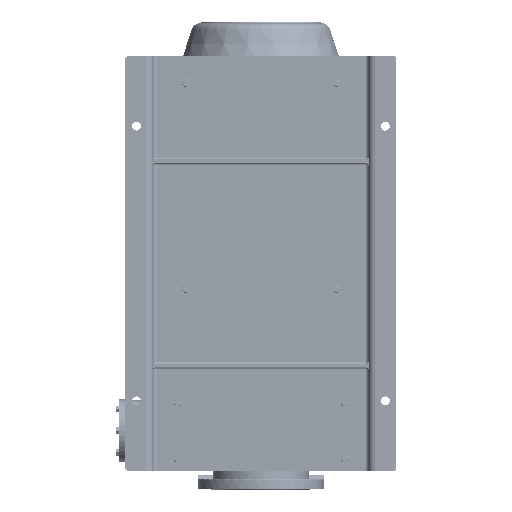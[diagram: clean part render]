
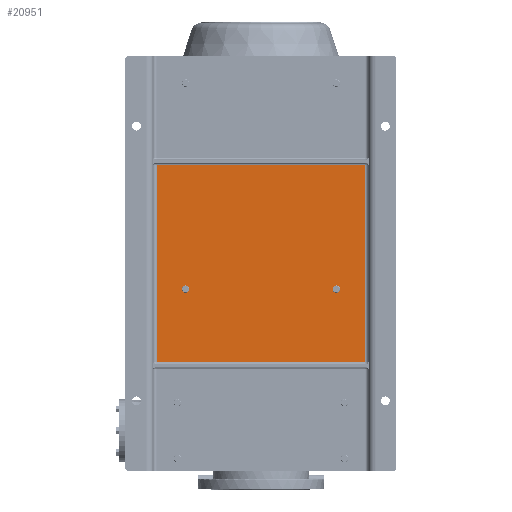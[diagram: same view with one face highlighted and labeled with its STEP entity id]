
A CAD part, front view. The second image highlights one B-rep face of the part: STEP entity #20951.
In plain terms, the highlighted planar face has unit normal (0, -1, 0).
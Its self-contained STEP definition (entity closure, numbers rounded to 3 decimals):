
#3904 = DIRECTION ( 'NONE',  ( 0., 0., -1. ) ) ;
#4015 = CARTESIAN_POINT ( 'NONE',  ( 568., 90., -491. ) ) ;
#6374 = DIRECTION ( 'NONE',  ( 1., 0., 0. ) ) ;
#7520 = AXIS2_PLACEMENT_3D ( 'NONE', #184359, #109014, #3904 ) ;
#7998 = EDGE_CURVE ( 'NONE', #85091, #188014, #187781, .T. ) ;
#10319 = DIRECTION ( 'NONE',  ( 0., 0., 1. ) ) ;
#13290 = CARTESIAN_POINT ( 'NONE',  ( 568., 90., -491. ) ) ;
#18816 = CARTESIAN_POINT ( 'NONE',  ( 85., 90., -295. ) ) ;
#20566 = CARTESIAN_POINT ( 'NONE',  ( 162., 90., -501. ) ) ;
#20951 = ADVANCED_FACE ( 'NONE', ( #178022, #148269, #24383 ), #177030, .T. ) ;
#21096 = LINE ( 'NONE', #81578, #127099 ) ;
#22354 = EDGE_CURVE ( 'NONE', #185042, #191913, #182344, .T. ) ;
#24383 = FACE_OUTER_BOUND ( 'NONE', #164989, .T. ) ;
#27341 = DIRECTION ( 'NONE',  ( 0., 0., -1. ) ) ;
#30324 = CARTESIAN_POINT ( 'NONE',  ( 645., 90., -825. ) ) ;
#40263 = LINE ( 'NONE', #114583, #57205 ) ;
#48142 = DIRECTION ( 'NONE',  ( 0., 1., 0. ) ) ;
#50888 = ORIENTED_EDGE ( 'NONE', *, *, #185907, .T. ) ;
#51820 = CARTESIAN_POINT ( 'NONE',  ( 568., 90., -501. ) ) ;
#57205 = VECTOR ( 'NONE', #75640, 1000. ) ;
#58066 = EDGE_CURVE ( 'NONE', #166038, #155344, #151873, .T. ) ;
#58085 = CARTESIAN_POINT ( 'NONE',  ( 75., 90., -1120. ) ) ;
#59703 = VECTOR ( 'NONE', #6374, 1000. ) ;
#60034 = EDGE_CURVE ( 'NONE', #188014, #99273, #172091, .T. ) ;
#62069 = AXIS2_PLACEMENT_3D ( 'NONE', #135410, #48142, #120547 ) ;
#62744 = ORIENTED_EDGE ( 'NONE', *, *, #148448, .T. ) ;
#63283 = CARTESIAN_POINT ( 'NONE',  ( 162., 90., -481. ) ) ;
#65509 = CARTESIAN_POINT ( 'NONE',  ( 568., 90., -481. ) ) ;
#69472 = ORIENTED_EDGE ( 'NONE', *, *, #60034, .T. ) ;
#74963 = ORIENTED_EDGE ( 'NONE', *, *, #22354, .T. ) ;
#75640 = DIRECTION ( 'NONE',  ( 0., 0., -1. ) ) ;
#81578 = CARTESIAN_POINT ( 'NONE',  ( 75., 90., -295. ) ) ;
#83304 = VECTOR ( 'NONE', #98687, 1000. ) ;
#83684 = CARTESIAN_POINT ( 'NONE',  ( 85., 90., -825. ) ) ;
#84848 = DIRECTION ( 'NONE',  ( 0., -1., 0. ) ) ;
#85091 = VERTEX_POINT ( 'NONE', #83684 ) ;
#86790 = CIRCLE ( 'NONE', #7520, 10. ) ;
#93611 = EDGE_CURVE ( 'NONE', #191913, #185042, #86790, .T. ) ;
#98408 = DIRECTION ( 'NONE',  ( -1., 0., 0. ) ) ;
#98687 = DIRECTION ( 'NONE',  ( 0., 0., 1. ) ) ;
#99273 = VERTEX_POINT ( 'NONE', #180060 ) ;
#101057 = AXIS2_PLACEMENT_3D ( 'NONE', #58085, #84848, #27341 ) ;
#103665 = ORIENTED_EDGE ( 'NONE', *, *, #131125, .T. ) ;
#109014 = DIRECTION ( 'NONE',  ( 0., 1., 0. ) ) ;
#114012 = CIRCLE ( 'NONE', #161571, 10. ) ;
#114583 = CARTESIAN_POINT ( 'NONE',  ( 85., 90., -830. ) ) ;
#120547 = DIRECTION ( 'NONE',  ( 0., 0., -1. ) ) ;
#123052 = DIRECTION ( 'NONE',  ( 0., 0., 1. ) ) ;
#123286 = AXIS2_PLACEMENT_3D ( 'NONE', #4015, #171556, #123052 ) ;
#126152 = ORIENTED_EDGE ( 'NONE', *, *, #58066, .T. ) ;
#127099 = VECTOR ( 'NONE', #98408, 1000. ) ;
#128323 = CARTESIAN_POINT ( 'NONE',  ( 75., 90., -825. ) ) ;
#130151 = EDGE_LOOP ( 'NONE', ( #126152, #50888 ) ) ;
#131125 = EDGE_CURVE ( 'NONE', #99273, #133699, #21096, .T. ) ;
#131293 = DIRECTION ( 'NONE',  ( 0., 1., 0. ) ) ;
#133699 = VERTEX_POINT ( 'NONE', #18816 ) ;
#135410 = CARTESIAN_POINT ( 'NONE',  ( 162., 90., -491. ) ) ;
#145247 = CARTESIAN_POINT ( 'NONE',  ( 645., 90., -290. ) ) ;
#148269 = FACE_BOUND ( 'NONE', #176292, .T. ) ;
#148448 = EDGE_CURVE ( 'NONE', #133699, #85091, #40263, .T. ) ;
#151873 = CIRCLE ( 'NONE', #123286, 10. ) ;
#155344 = VERTEX_POINT ( 'NONE', #51820 ) ;
#158309 = ORIENTED_EDGE ( 'NONE', *, *, #93611, .T. ) ;
#161571 = AXIS2_PLACEMENT_3D ( 'NONE', #13290, #131293, #10319 ) ;
#164989 = EDGE_LOOP ( 'NONE', ( #62744, #169627, #69472, #103665 ) ) ;
#166038 = VERTEX_POINT ( 'NONE', #65509 ) ;
#169627 = ORIENTED_EDGE ( 'NONE', *, *, #7998, .T. ) ;
#171556 = DIRECTION ( 'NONE',  ( 0., 1., 0. ) ) ;
#172091 = LINE ( 'NONE', #145247, #83304 ) ;
#176292 = EDGE_LOOP ( 'NONE', ( #74963, #158309 ) ) ;
#177030 = PLANE ( 'NONE',  #101057 ) ;
#178022 = FACE_BOUND ( 'NONE', #130151, .T. ) ;
#180060 = CARTESIAN_POINT ( 'NONE',  ( 645., 90., -295. ) ) ;
#182344 = CIRCLE ( 'NONE', #62069, 10. ) ;
#184359 = CARTESIAN_POINT ( 'NONE',  ( 162., 90., -491. ) ) ;
#185042 = VERTEX_POINT ( 'NONE', #63283 ) ;
#185907 = EDGE_CURVE ( 'NONE', #155344, #166038, #114012, .T. ) ;
#187781 = LINE ( 'NONE', #128323, #59703 ) ;
#188014 = VERTEX_POINT ( 'NONE', #30324 ) ;
#191913 = VERTEX_POINT ( 'NONE', #20566 ) ;
